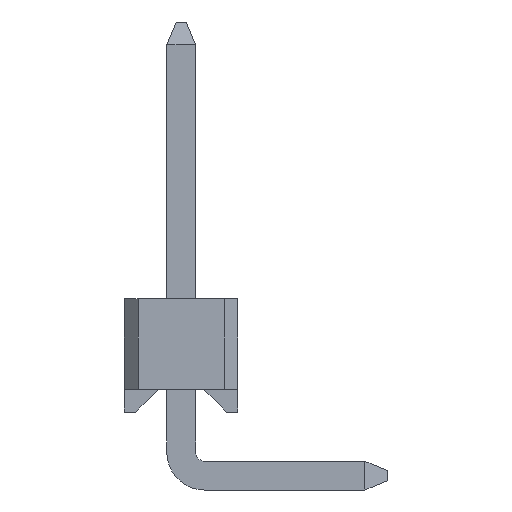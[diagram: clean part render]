
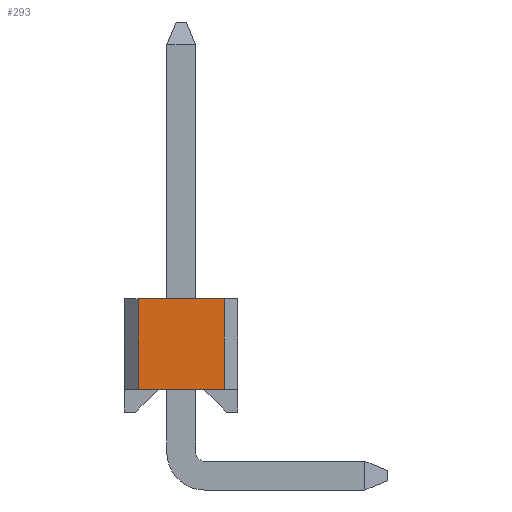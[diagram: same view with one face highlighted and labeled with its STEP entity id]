
A CAD part, left-side view. The second image highlights one B-rep face of the part: STEP entity #293.
In plain terms, the highlighted planar face has unit normal (-1, 0, 0).
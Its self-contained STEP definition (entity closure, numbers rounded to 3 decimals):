
#293=ADVANCED_FACE('',(#2229),#1287,.T.);
#1287=PLANE('',#18794);
#2229=FACE_OUTER_BOUND('',#3275,.T.);
#3275=EDGE_LOOP('',(#5450,#5451,#5452,#5453));
#5450=ORIENTED_EDGE('',*,*,#12199,.F.);
#5451=ORIENTED_EDGE('',*,*,#11836,.T.);
#5452=ORIENTED_EDGE('',*,*,#12200,.T.);
#5453=ORIENTED_EDGE('',*,*,#12070,.T.);
#10093=VERTEX_POINT('',#25969);
#10094=VERTEX_POINT('',#25971);
#10289=VERTEX_POINT('',#26400);
#10290=VERTEX_POINT('',#26402);
#11836=EDGE_CURVE('',#10094,#10093,#14448,.T.);
#12070=EDGE_CURVE('',#10290,#10289,#14682,.T.);
#12199=EDGE_CURVE('',#10094,#10289,#14811,.T.);
#12200=EDGE_CURVE('',#10093,#10290,#14812,.T.);
#14448=LINE('',#25970,#16956);
#14682=LINE('',#26401,#17190);
#14811=LINE('',#26622,#17319);
#14812=LINE('',#26623,#17320);
#16956=VECTOR('',#20661,1.);
#17190=VECTOR('',#20897,1.);
#17319=VECTOR('',#21030,1.);
#17320=VECTOR('',#21031,1.);
#18794=AXIS2_PLACEMENT_3D('',#26624,#21032,#21033);
#20661=DIRECTION('',(0.,-1.,0.));
#20897=DIRECTION('',(0.,1.,0.));
#21030=DIRECTION('',(0.,0.,1.));
#21031=DIRECTION('',(0.,0.,1.));
#21032=DIRECTION('',(-1.,0.,0.));
#21033=DIRECTION('',(0.,0.,1.));
#25969=CARTESIAN_POINT('',(0.,0.3,0.));
#25970=CARTESIAN_POINT('',(0.,1.25,0.));
#25971=CARTESIAN_POINT('',(0.,2.2,0.));
#26400=CARTESIAN_POINT('',(0.,2.2,2.));
#26401=CARTESIAN_POINT('',(0.,1.25,2.));
#26402=CARTESIAN_POINT('',(0.,0.3,2.));
#26622=CARTESIAN_POINT('',(0.,2.2,0.));
#26623=CARTESIAN_POINT('',(0.,0.3,0.));
#26624=CARTESIAN_POINT('',(0.,1.25,0.));
